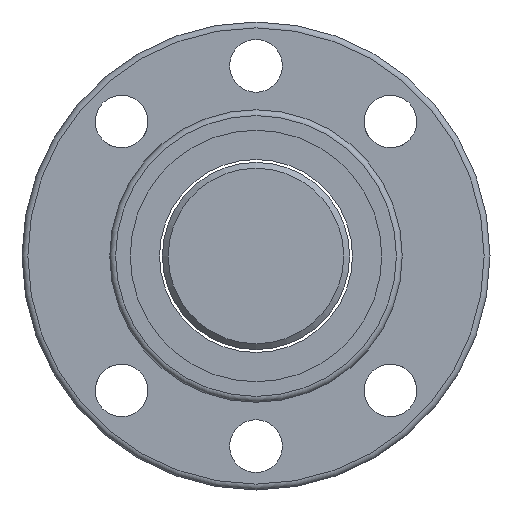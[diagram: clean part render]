
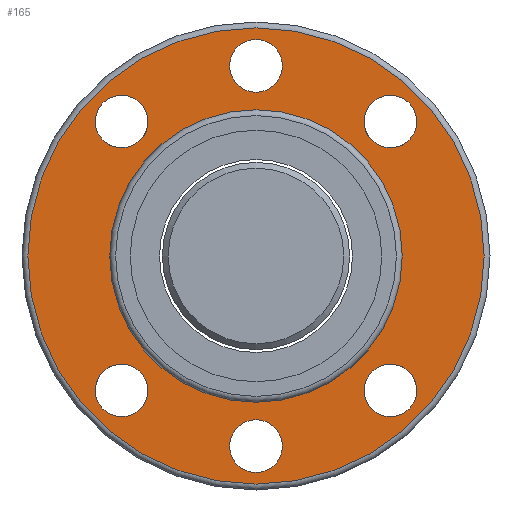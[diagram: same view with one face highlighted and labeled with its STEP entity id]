
A CAD part, left-side view. The second image highlights one B-rep face of the part: STEP entity #165.
In plain terms, the highlighted planar face has unit normal (-1, 0, 0).
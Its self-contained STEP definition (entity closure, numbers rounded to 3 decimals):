
#123=PLANE('',#679);
#138=FACE_OUTER_BOUND('',#333,.T.);
#165=ADVANCED_FACE('',(#239,#240,#241,#242,#243,#244,#138,#245),#123,.F.);
#239=FACE_BOUND('',#327,.T.);
#240=FACE_BOUND('',#328,.T.);
#241=FACE_BOUND('',#329,.T.);
#242=FACE_BOUND('',#330,.T.);
#243=FACE_BOUND('',#331,.T.);
#244=FACE_BOUND('',#332,.T.);
#245=FACE_BOUND('',#334,.T.);
#327=EDGE_LOOP('',(#425));
#328=EDGE_LOOP('',(#426));
#329=EDGE_LOOP('',(#427));
#330=EDGE_LOOP('',(#428));
#331=EDGE_LOOP('',(#429));
#332=EDGE_LOOP('',(#430));
#333=EDGE_LOOP('',(#431));
#334=EDGE_LOOP('',(#432));
#425=ORIENTED_EDGE('',*,*,#556,.T.);
#426=ORIENTED_EDGE('',*,*,#557,.T.);
#427=ORIENTED_EDGE('',*,*,#558,.T.);
#428=ORIENTED_EDGE('',*,*,#559,.T.);
#429=ORIENTED_EDGE('',*,*,#560,.T.);
#430=ORIENTED_EDGE('',*,*,#561,.T.);
#431=ORIENTED_EDGE('',*,*,#562,.F.);
#432=ORIENTED_EDGE('',*,*,#554,.T.);
#505=VERTEX_POINT('',#968);
#507=VERTEX_POINT('',#973);
#508=VERTEX_POINT('',#975);
#509=VERTEX_POINT('',#977);
#510=VERTEX_POINT('',#979);
#511=VERTEX_POINT('',#981);
#512=VERTEX_POINT('',#983);
#513=VERTEX_POINT('',#985);
#554=EDGE_CURVE('',#505,#505,#603,.T.);
#556=EDGE_CURVE('',#507,#507,#605,.T.);
#557=EDGE_CURVE('',#508,#508,#606,.T.);
#558=EDGE_CURVE('',#509,#509,#607,.T.);
#559=EDGE_CURVE('',#510,#510,#608,.T.);
#560=EDGE_CURVE('',#511,#511,#609,.T.);
#561=EDGE_CURVE('',#512,#512,#610,.T.);
#562=EDGE_CURVE('',#513,#513,#611,.T.);
#603=CIRCLE('',#669,25.);
#605=CIRCLE('',#672,4.5);
#606=CIRCLE('',#673,4.5);
#607=CIRCLE('',#674,4.5);
#608=CIRCLE('',#675,4.5);
#609=CIRCLE('',#676,4.5);
#610=CIRCLE('',#677,4.5);
#611=CIRCLE('',#678,39.);
#669=AXIS2_PLACEMENT_3D('',#967,#796,#797);
#672=AXIS2_PLACEMENT_3D('',#972,#802,#803);
#673=AXIS2_PLACEMENT_3D('',#974,#804,#805);
#674=AXIS2_PLACEMENT_3D('',#976,#806,#807);
#675=AXIS2_PLACEMENT_3D('',#978,#808,#809);
#676=AXIS2_PLACEMENT_3D('',#980,#810,#811);
#677=AXIS2_PLACEMENT_3D('',#982,#812,#813);
#678=AXIS2_PLACEMENT_3D('',#984,#814,#815);
#679=AXIS2_PLACEMENT_3D('',#986,#816,#817);
#796=DIRECTION('',(1.,0.,0.));
#797=DIRECTION('',(0.,0.,-1.));
#802=DIRECTION('',(1.,0.,0.));
#803=DIRECTION('',(0.,0.,-1.));
#804=DIRECTION('',(1.,0.,0.));
#805=DIRECTION('',(0.,0.,-1.));
#806=DIRECTION('',(1.,0.,0.));
#807=DIRECTION('',(0.,0.,-1.));
#808=DIRECTION('',(1.,0.,0.));
#809=DIRECTION('',(0.,0.,-1.));
#810=DIRECTION('',(1.,0.,0.));
#811=DIRECTION('',(0.,0.,-1.));
#812=DIRECTION('',(1.,0.,0.));
#813=DIRECTION('',(0.,0.,-1.));
#814=DIRECTION('',(1.,0.,0.));
#815=DIRECTION('',(0.,0.,-1.));
#816=DIRECTION('',(1.,0.,0.));
#817=DIRECTION('',(0.,0.,-1.));
#967=CARTESIAN_POINT('',(-27.,0.,0.));
#968=CARTESIAN_POINT('',(-27.,0.,-25.));
#972=CARTESIAN_POINT('',(-27.,22.981,22.981));
#973=CARTESIAN_POINT('',(-27.,22.981,18.481));
#974=CARTESIAN_POINT('',(-27.,22.981,-22.981));
#975=CARTESIAN_POINT('',(-27.,22.981,-27.481));
#976=CARTESIAN_POINT('',(-27.,0.,-32.5));
#977=CARTESIAN_POINT('',(-27.,0.,-37.));
#978=CARTESIAN_POINT('',(-27.,-22.981,-22.981));
#979=CARTESIAN_POINT('',(-27.,-22.981,-27.481));
#980=CARTESIAN_POINT('',(-27.,-22.981,22.981));
#981=CARTESIAN_POINT('',(-27.,-22.981,18.481));
#982=CARTESIAN_POINT('',(-27.,0.,32.5));
#983=CARTESIAN_POINT('',(-27.,0.,28.));
#984=CARTESIAN_POINT('',(-27.,0.,0.));
#985=CARTESIAN_POINT('',(-27.,0.,-39.));
#986=CARTESIAN_POINT('',(-27.,32.,0.));
